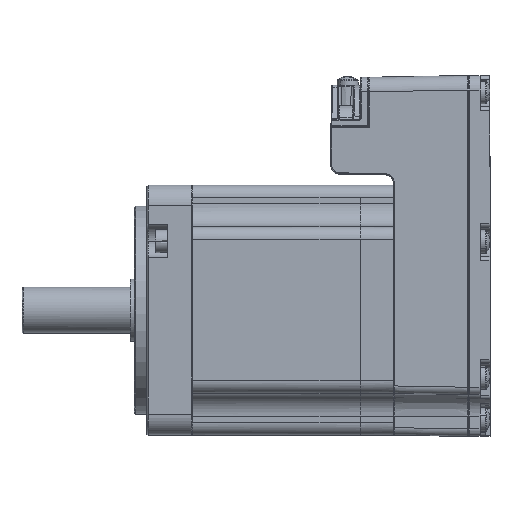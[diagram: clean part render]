
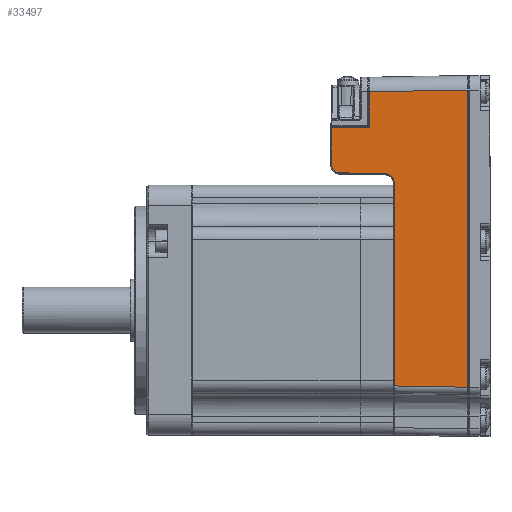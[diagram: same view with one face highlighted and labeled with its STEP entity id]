
A CAD part, top view. The second image highlights one B-rep face of the part: STEP entity #33497.
In plain terms, the highlighted planar face has unit normal (-0.018, 0, 1).
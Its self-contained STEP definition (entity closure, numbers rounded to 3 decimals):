
#1376 = CARTESIAN_POINT ( 'NONE',  ( 15.065, 32.927, 29.772 ) ) ;
#4792 = DIRECTION ( 'NONE',  ( 1., -0.017, 0.017 ) ) ;
#5111 = LINE ( 'NONE', #71825, #84394 ) ;
#5225 = ORIENTED_EDGE ( 'NONE', *, *, #21306, .T. ) ;
#5872 = VECTOR ( 'NONE', #45448, 1000. ) ;
#7958 = LINE ( 'NONE', #34281, #59077 ) ;
#7986 = LINE ( 'NONE', #13160, #40591 ) ;
#8126 = EDGE_LOOP ( 'NONE', ( #5225, #13657, #67738, #76011, #71009, #80551, #70151, #63321, #80338, #31629, #58065 ) ) ;
#12062 = AXIS2_PLACEMENT_3D ( 'NONE', #48473, #40050, #25896 ) ;
#13160 = CARTESIAN_POINT ( 'NONE',  ( 27.184, 52.485, 29.984 ) ) ;
#13311 =( BOUNDED_CURVE ( )  B_SPLINE_CURVE ( 3, ( #65611, #26899, #14319, #1376 ),
 .UNSPECIFIED., .F., .T. ) 
 B_SPLINE_CURVE_WITH_KNOTS ( ( 4, 4 ),
 ( 3.142, 4.695 ),
 .UNSPECIFIED. ) 
 CURVE ( )  GEOMETRIC_REPRESENTATION_ITEM ( )  RATIONAL_B_SPLINE_CURVE ( ( 1., 0.809, 0.809, 1. ) ) 
 REPRESENTATION_ITEM ( '' )  );
#13382 = DIRECTION ( 'NONE',  ( 1., -0.017, 0.017 ) ) ;
#13657 = ORIENTED_EDGE ( 'NONE', *, *, #68493, .T. ) ;
#14025 = VERTEX_POINT ( 'NONE', #50989 ) ;
#14319 = CARTESIAN_POINT ( 'NONE',  ( 14.025, 32.946, 29.754 ) ) ;
#14390 = CARTESIAN_POINT ( 'NONE',  ( 13.297, 34.727, 29.742 ) ) ;
#16607 = DIRECTION ( 'NONE',  ( -1., 0., -0.017 ) ) ;
#17096 = VERTEX_POINT ( 'NONE', #20691 ) ;
#20533 = CARTESIAN_POINT ( 'NONE',  ( 28.297, 30.535, 30.003 ) ) ;
#20691 = CARTESIAN_POINT ( 'NONE',  ( 22.37, 52.401, 29.9 ) ) ;
#21306 = EDGE_CURVE ( 'NONE', #69914, #39946, #83206, .T. ) ;
#23264 = CARTESIAN_POINT ( 'NONE',  ( 21.997, 43.8, 29.893 ) ) ;
#23747 = EDGE_CURVE ( 'NONE', #65769, #48052, #53439, .T. ) ;
#23942 = CARTESIAN_POINT ( 'NONE',  ( 13.297, 34.727, 29.742 ) ) ;
#24441 = CARTESIAN_POINT ( 'NONE',  ( 28.1, 43.8, 30. ) ) ;
#25006 = EDGE_CURVE ( 'NONE', #48052, #73595, #77540, .T. ) ;
#25299 = VECTOR ( 'NONE', #73825, 1000. ) ;
#25896 = DIRECTION ( 'NONE',  ( 1., 0., 0.017 ) ) ;
#26899 = CARTESIAN_POINT ( 'NONE',  ( 13.297, 33.687, 29.742 ) ) ;
#27081 = CARTESIAN_POINT ( 'NONE',  ( 15.065, 32.927, 29.772 ) ) ;
#30912 = VERTEX_POINT ( 'NONE', #56574 ) ;
#30916 = LINE ( 'NONE', #24441, #83245 ) ;
#31629 = ORIENTED_EDGE ( 'NONE', *, *, #25006, .T. ) ;
#31800 = EDGE_CURVE ( 'NONE', #75683, #65769, #13311, .T. ) ;
#31957 = CARTESIAN_POINT ( 'NONE',  ( 28.67, 32.69, 30.01 ) ) ;
#33021 = DIRECTION ( 'NONE',  ( -1., -0.017, -0.017 ) ) ;
#33497 = ADVANCED_FACE ( 'NONE', ( #61423 ), #78344, .T. ) ;
#34281 = CARTESIAN_POINT ( 'NONE',  ( 22.297, 44.097, 29.899 ) ) ;
#38915 = EDGE_CURVE ( 'NONE', #30912, #44333, #55524, .T. ) ;
#39946 = VERTEX_POINT ( 'NONE', #57981 ) ;
#40050 = DIRECTION ( 'NONE',  ( -0.017, 0., 1. ) ) ;
#40591 = VECTOR ( 'NONE', #33021, 1000. ) ;
#41767 = CARTESIAN_POINT ( 'NONE',  ( 28.297, 31.806, 30.003 ) ) ;
#43049 = CARTESIAN_POINT ( 'NONE',  ( 22.297, 44.097, 29.899 ) ) ;
#44333 = VERTEX_POINT ( 'NONE', #78926 ) ;
#44946 = CARTESIAN_POINT ( 'NONE',  ( 13.297, 43.8, 29.742 ) ) ;
#45448 = DIRECTION ( 'NONE',  ( 0., -1., 0. ) ) ;
#48052 = VERTEX_POINT ( 'NONE', #62236 ) ;
#48206 = CARTESIAN_POINT ( 'NONE',  ( 22.296, 43.923, 29.899 ) ) ;
#48473 = CARTESIAN_POINT ( 'NONE',  ( 28.1, 0., 30. ) ) ;
#50989 = CARTESIAN_POINT ( 'NONE',  ( 45.998, 52.813, 30.312 ) ) ;
#51179 = EDGE_CURVE ( 'NONE', #57610, #75683, #74242, .T. ) ;
#53439 = LINE ( 'NONE', #31957, #72955 ) ;
#54260 = CARTESIAN_POINT ( 'NONE',  ( 27.406, 32.712, 29.988 ) ) ;
#54683 = CARTESIAN_POINT ( 'NONE',  ( 26.135, 32.734, 29.966 ) ) ;
#55524 =( BOUNDED_CURVE ( )  B_SPLINE_CURVE ( 3, ( #43049, #48206, #69302, #23264 ),
 .UNSPECIFIED., .F., .T. ) 
 B_SPLINE_CURVE_WITH_KNOTS ( ( 4, 4 ),
 ( 0.009, 1.571 ),
 .UNSPECIFIED. ) 
 CURVE ( )  GEOMETRIC_REPRESENTATION_ITEM ( )  RATIONAL_B_SPLINE_CURVE ( ( 1., 0.807, 0.807, 1. ) ) 
 REPRESENTATION_ITEM ( '' )  );
#56514 = EDGE_CURVE ( 'NONE', #17096, #30912, #7958, .T. ) ;
#56574 = CARTESIAN_POINT ( 'NONE',  ( 22.297, 44.097, 29.899 ) ) ;
#57610 = VERTEX_POINT ( 'NONE', #44946 ) ;
#57981 = CARTESIAN_POINT ( 'NONE',  ( 45.998, -18.563, 30.312 ) ) ;
#58065 = ORIENTED_EDGE ( 'NONE', *, *, #72269, .T. ) ;
#59077 = VECTOR ( 'NONE', #67398, 1000. ) ;
#61140 = CARTESIAN_POINT ( 'NONE',  ( 28.297, 30.535, 30.003 ) ) ;
#61423 = FACE_OUTER_BOUND ( 'NONE', #8126, .T. ) ;
#62236 = CARTESIAN_POINT ( 'NONE',  ( 26.135, 32.734, 29.966 ) ) ;
#63321 = ORIENTED_EDGE ( 'NONE', *, *, #31800, .T. ) ;
#63948 = EDGE_CURVE ( 'NONE', #44333, #57610, #30916, .T. ) ;
#65611 = CARTESIAN_POINT ( 'NONE',  ( 13.297, 34.727, 29.742 ) ) ;
#65769 = VERTEX_POINT ( 'NONE', #27081 ) ;
#67398 = DIRECTION ( 'NONE',  ( -0.009, -1., 0. ) ) ;
#67738 = ORIENTED_EDGE ( 'NONE', *, *, #73615, .T. ) ;
#68493 = EDGE_CURVE ( 'NONE', #39946, #14025, #5111, .T. ) ;
#69302 = CARTESIAN_POINT ( 'NONE',  ( 22.172, 43.8, 29.897 ) ) ;
#69914 = VERTEX_POINT ( 'NONE', #73202 ) ;
#70151 = ORIENTED_EDGE ( 'NONE', *, *, #51179, .T. ) ;
#71009 = ORIENTED_EDGE ( 'NONE', *, *, #38915, .T. ) ;
#71825 = CARTESIAN_POINT ( 'NONE',  ( 45.998, 52.815, 30.312 ) ) ;
#72269 = EDGE_CURVE ( 'NONE', #73595, #69914, #78167, .T. ) ;
#72548 = CARTESIAN_POINT ( 'NONE',  ( 28.297, 0., 30.003 ) ) ;
#72661 = VECTOR ( 'NONE', #4792, 1000. ) ;
#72955 = VECTOR ( 'NONE', #13382, 1000. ) ;
#73202 = CARTESIAN_POINT ( 'NONE',  ( 28.297, -18.254, 30.003 ) ) ;
#73595 = VERTEX_POINT ( 'NONE', #20533 ) ;
#73615 = EDGE_CURVE ( 'NONE', #14025, #17096, #7986, .T. ) ;
#73825 = DIRECTION ( 'NONE',  ( 0., -1., 0. ) ) ;
#74242 = LINE ( 'NONE', #14390, #25299 ) ;
#75683 = VERTEX_POINT ( 'NONE', #23942 ) ;
#76011 = ORIENTED_EDGE ( 'NONE', *, *, #56514, .T. ) ;
#77540 =( BOUNDED_CURVE ( )  B_SPLINE_CURVE ( 3, ( #54683, #54260, #41767, #61140 ),
 .UNSPECIFIED., .F., .T. ) 
 B_SPLINE_CURVE_WITH_KNOTS ( ( 4, 4 ),
 ( 4.73, 6.283 ),
 .UNSPECIFIED. ) 
 CURVE ( )  GEOMETRIC_REPRESENTATION_ITEM ( )  RATIONAL_B_SPLINE_CURVE ( ( 1., 0.809, 0.809, 1. ) ) 
 REPRESENTATION_ITEM ( '' )  );
#78167 = LINE ( 'NONE', #72548, #5872 ) ;
#78344 = PLANE ( 'NONE',  #12062 ) ;
#78926 = CARTESIAN_POINT ( 'NONE',  ( 21.997, 43.8, 29.893 ) ) ;
#80338 = ORIENTED_EDGE ( 'NONE', *, *, #23747, .T. ) ;
#80551 = ORIENTED_EDGE ( 'NONE', *, *, #63948, .T. ) ;
#83206 = LINE ( 'NONE', #83633, #72661 ) ;
#83245 = VECTOR ( 'NONE', #16607, 1000. ) ;
#83633 = CARTESIAN_POINT ( 'NONE',  ( 27.782, -18.245, 29.994 ) ) ;
#83932 = DIRECTION ( 'NONE',  ( 0., 1., 0. ) ) ;
#84394 = VECTOR ( 'NONE', #83932, 1000. ) ;
